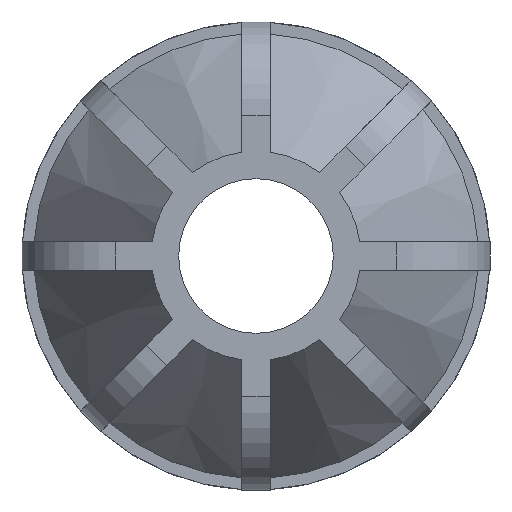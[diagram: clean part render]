
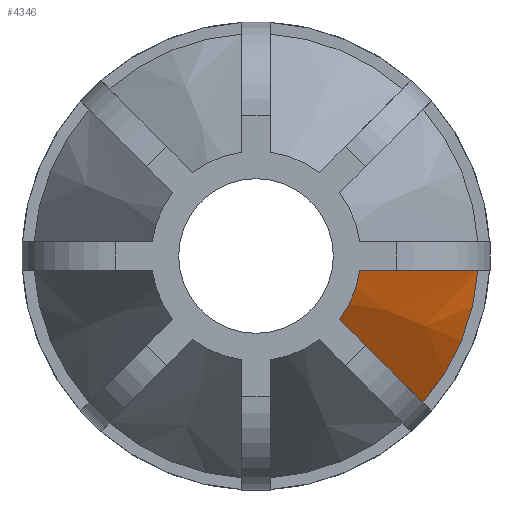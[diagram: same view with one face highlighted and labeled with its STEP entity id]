
A CAD part, left-side view. The second image highlights one B-rep face of the part: STEP entity #4346.
In plain terms, the highlighted conical face has half-angle 31.683 degrees and reference radius 24.854 mm.
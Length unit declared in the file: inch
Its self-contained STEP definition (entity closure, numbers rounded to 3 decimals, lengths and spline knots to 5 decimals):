
#25=CONICAL_SURFACE('',#4693,0.97851,0.553);
#99=(
BOUNDED_CURVE()
B_SPLINE_CURVE(2,(#6999,#7000,#7001),.UNSPECIFIED.,.F.,.F.)
B_SPLINE_CURVE_WITH_KNOTS((3,3),(0.,3.40384),.UNSPECIFIED.)
CURVE()
GEOMETRIC_REPRESENTATION_ITEM()
RATIONAL_B_SPLINE_CURVE((1.,1.072,1.))
REPRESENTATION_ITEM('')
);
#108=(
BOUNDED_CURVE()
B_SPLINE_CURVE(2,(#7179,#7180,#7181),.UNSPECIFIED.,.F.,.F.)
B_SPLINE_CURVE_WITH_KNOTS((3,3),(0.,3.40384),.UNSPECIFIED.)
CURVE()
GEOMETRIC_REPRESENTATION_ITEM()
RATIONAL_B_SPLINE_CURVE((1.,1.072,1.))
REPRESENTATION_ITEM('')
);
#394=FACE_OUTER_BOUND('',#616,.T.);
#616=EDGE_LOOP('',(#3340,#3341,#3342,#3343));
#1500=CIRCLE('',#4689,0.62702);
#1504=CIRCLE('',#4694,1.33);
#1829=VERTEX_POINT('',#6996);
#1830=VERTEX_POINT('',#6998);
#1880=VERTEX_POINT('',#7166);
#1884=VERTEX_POINT('',#7177);
#2342=EDGE_CURVE('',#1830,#1829,#99,.T.);
#2420=EDGE_CURVE('',#1880,#1830,#1500,.T.);
#2426=EDGE_CURVE('',#1884,#1829,#1504,.T.);
#2427=EDGE_CURVE('',#1884,#1880,#108,.T.);
#3340=ORIENTED_EDGE('',*,*,#2342,.T.);
#3341=ORIENTED_EDGE('',*,*,#2426,.F.);
#3342=ORIENTED_EDGE('',*,*,#2427,.T.);
#3343=ORIENTED_EDGE('',*,*,#2420,.T.);
#4346=ADVANCED_FACE('',(#394),#25,.T.);
#4689=AXIS2_PLACEMENT_3D('',#7167,#5563,#5564);
#4693=AXIS2_PLACEMENT_3D('',#7176,#5573,#5574);
#4694=AXIS2_PLACEMENT_3D('',#7178,#5575,#5576);
#5563=DIRECTION('center_axis',(1.,0.,0.));
#5564=DIRECTION('ref_axis',(0.,0.,-1.));
#5573=DIRECTION('center_axis',(1.,0.,0.));
#5574=DIRECTION('ref_axis',(0.,1.,0.));
#5575=DIRECTION('center_axis',(1.,0.,0.));
#5576=DIRECTION('ref_axis',(0.,0.,-1.));
#6996=CARTESIAN_POINT('',(-2.875,-0.99877,-0.87827));
#6998=CARTESIAN_POINT('',(-4.014,-0.4995,-0.37901));
#6999=CARTESIAN_POINT('Ctrl Pts',(-4.014,-0.4995,-0.37901));
#7000=CARTESIAN_POINT('Ctrl Pts',(-3.65087,-0.65946,
-0.53897));
#7001=CARTESIAN_POINT('Ctrl Pts',(-2.875,-0.99877,-0.87827));
#7166=CARTESIAN_POINT('',(-4.014,-0.6212,-0.0852));
#7167=CARTESIAN_POINT('Origin',(-4.014,0.,0.));
#7176=CARTESIAN_POINT('Origin',(-3.4445,0.,0.));
#7177=CARTESIAN_POINT('',(-2.875,-1.32727,-0.0852));
#7178=CARTESIAN_POINT('Origin',(-2.875,0.,0.));
#7179=CARTESIAN_POINT('Ctrl Pts',(-2.875,-1.32727,-0.0852));
#7180=CARTESIAN_POINT('Ctrl Pts',(-3.65087,-0.84742,
-0.0852));
#7181=CARTESIAN_POINT('Ctrl Pts',(-4.014,-0.6212,-0.0852));
